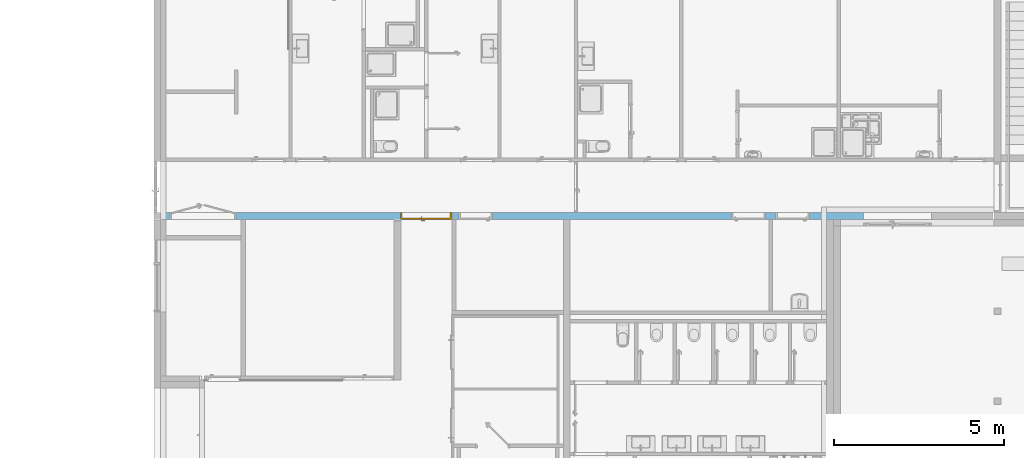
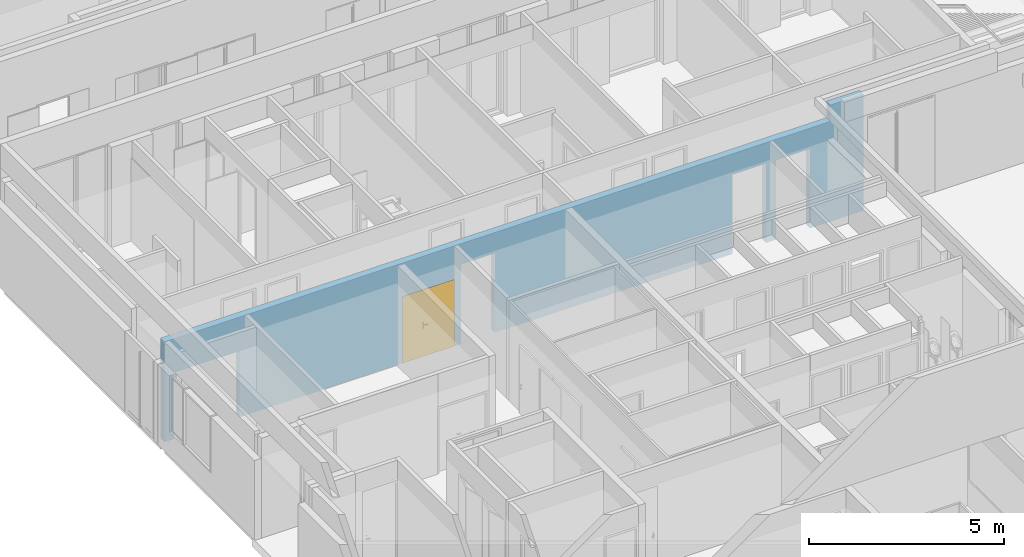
# One storey, part 200 of 240: 1 door, 6 openings, plus 1 element that does not belong to this part.
"""IFC2X3 building model written with IfcOpenShell, lengths in centimetres."""

from ifc_helpers import new_model, entity, si_unit, converted_unit, derived_unit, direction, frame, frame_2d, origin, place, context, subcontext, project, spatial, rectangle, extrude, faceted_brep, source, transform, mapped, material, material_list, layer, layer_set, layer_usage, type_object, type_shapes, element, fill, save


model = new_model("IFC2X3")

# Units and contexts
model_context = context("Model", 3, precision=0.001, world=origin(), true_north=direction((6.12303176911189e-17, 1.0)))
body_context = subcontext(model_context, "Body", "Model", "MODEL_VIEW")
ifc_project = project(units=[si_unit("LENGTHUNIT", "METRE", prefix="CENTI"), si_unit("AREAUNIT", "SQUARE_METRE"), si_unit("VOLUMEUNIT", "CUBIC_METRE"), converted_unit("PLANEANGLEUNIT", "DEGREE", entity("IfcRatioMeasure", 0.0174532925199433), si_unit("PLANEANGLEUNIT", "RADIAN"), dimensions=[0, 0, 0, 0, 0, 0, 0]), si_unit("MASSUNIT", "GRAM", prefix="KILO"), derived_unit("MASSDENSITYUNIT", [(si_unit("MASSUNIT", "GRAM", prefix="KILO"), 1), (si_unit("LENGTHUNIT", "METRE"), -3)]), si_unit("TIMEUNIT", "SECOND"), si_unit("FREQUENCYUNIT", "HERTZ"), si_unit("THERMODYNAMICTEMPERATUREUNIT", "DEGREE_CELSIUS"), derived_unit("THERMALTRANSMITTANCEUNIT", [(si_unit("MASSUNIT", "GRAM", prefix="KILO"), 1), (si_unit("THERMODYNAMICTEMPERATUREUNIT", "KELVIN"), -1), (si_unit("TIMEUNIT", "SECOND"), -3)]), derived_unit("VOLUMETRICFLOWRATEUNIT", [(si_unit("LENGTHUNIT", "METRE"), 3), (si_unit("TIMEUNIT", "SECOND"), -1)]), si_unit("ELECTRICCURRENTUNIT", "AMPERE"), si_unit("ELECTRICVOLTAGEUNIT", "VOLT"), si_unit("POWERUNIT", "WATT"), si_unit("FORCEUNIT", "NEWTON", prefix="KILO"), si_unit("ILLUMINANCEUNIT", "LUX"), si_unit("LUMINOUSFLUXUNIT", "LUMEN"), si_unit("LUMINOUSINTENSITYUNIT", "CANDELA"), derived_unit("USERDEFINED", [(si_unit("MASSUNIT", "GRAM", prefix="KILO"), -1), (si_unit("LENGTHUNIT", "METRE"), -2), (si_unit("TIMEUNIT", "SECOND"), 3), (si_unit("LUMINOUSFLUXUNIT", "LUMEN"), 1)]), derived_unit("LINEARVELOCITYUNIT", [(si_unit("LENGTHUNIT", "METRE"), 1), (si_unit("TIMEUNIT", "SECOND"), -1)]), si_unit("PRESSUREUNIT", "PASCAL"), derived_unit("USERDEFINED", [(si_unit("LENGTHUNIT", "METRE"), -2), (si_unit("MASSUNIT", "GRAM", prefix="KILO"), 1), (si_unit("TIMEUNIT", "SECOND"), -2)])], contexts=[model_context])

# Site, building, storey
site_placement = place(None, frame((-2781.94577612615, 7442.24238424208, 0.0)))
site = spatial("IfcSite", under=ifc_project, at=site_placement, Name="Default", CompositionType="ELEMENT")
building_placement = place(site_placement, origin())
building = spatial("IfcBuilding", under=site, at=building_placement, CompositionType="ELEMENT")
storey_placement = place(building_placement, origin())
storey = spatial("IfcBuildingStorey", under=building, at=storey_placement, Name="N00 - COO", CompositionType="ELEMENT", Elevation=0.0)

# Wall, openings, door
ifc_material_1 = material(Name="01 - Maçonnerie")
ifc_layer = layer(ifc_material_1, 20.0)
ifc_layer_set = layer_set([ifc_layer], Name="Mur de base:04 - Structure - béton - 20cm")
ifc_layer_usage = layer_usage(ifc_layer_set, "AXIS2", "NEGATIVE", 10.0)
wall_type = type_object("IfcWallType", Name="Mur de base:04 - Structure - béton - 20cm", PredefinedType="STANDARD", material=ifc_layer_set)
wall_placement = place(building_placement, frame((-10881.6130476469, -1920.07903364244, 0.0)))
wall = element("IfcWallStandardCase", 1, at=wall_placement, inside=storey, type_object=wall_type, material=ifc_layer_usage, Name="Mur de base:04 - Structure - béton - 20cm", ObjectType="Mur de base:04 - Structure - béton - 20cm", context=body_context, shape_type="SweptSolid", body=[
    extrude(rectangle(XDim=2067.62566675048, YDim=19.9999999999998, at=frame_2d((1033.81283337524, 9.32587340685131e-14), x_axis=(-1.0, 0.0))), origin(), (0.0, 0.0, 1.0), 364.000000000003),
])
opening_1_placement = place(wall_placement, origin())
element("IfcOpeningElement", 2, at=opening_1_placement, cuts=wall, Name="Mur de base:04 - Structure - béton - 20cm:4570", ObjectType="Opening", context=body_context, shape_type="SweptSolid", body=[
    extrude(rectangle(XDim=51.0000000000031, YDim=1979.68086759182, at=frame_2d((0.0, 0.0), x_axis=(0.0, 1.0))), frame((979.840433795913, 10.0, 338.500000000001), z_axis=(0.0, -1.0, 0.0), x_axis=(-1.0, 0.0, 0.0)), (0.0, 0.0, 1.0), 20.0),
])
opening_2_placement = place(wall_placement, frame((856.778497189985, 10.0, 0.0)))
opening_2 = element("IfcOpeningElement", 3, at=opening_2_placement, cuts=wall, Name="Int. Tierce:PP (1.44m x 2.04m):1", ObjectType="Opening", context=body_context, shape_type="SweptSolid", body=[
    extrude(rectangle(XDim=207.500000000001, YDim=151.0, at=frame_2d((103.750000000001, 75.4999999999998), x_axis=(1.0, 0.0))), frame((0.0, 0.0, 0.0), z_axis=(0.0, -1.0, 0.0), x_axis=(0.0, 0.0, 1.0)), (0.0, 0.0, 1.0), 20.0),
])
opening_3_placement = place(wall_placement, frame((976.778497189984, 10.0, 0.0)))
element("IfcOpeningElement", 4, at=opening_3_placement, cuts=wall, Name="Int. Simple:PP simple (0.93m x 2.50m):1", ObjectType="Opening", context=body_context, shape_type="SweptSolid", body=[
    extrude(rectangle(XDim=248.500000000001, YDim=99.9999999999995, at=frame_2d((124.250000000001, 49.9999999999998), x_axis=(1.0, 0.0))), frame((0.0, 0.0, 0.0), z_axis=(0.0, -1.0, 0.0), x_axis=(0.0, 0.0, 1.0)), (0.0, 0.0, 1.0), 20.0),
])
opening_4_placement = place(wall_placement, frame((1779.61305066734, 10.0, 0.0)))
element("IfcOpeningElement", 5, at=opening_4_placement, cuts=wall, Name="Int. Simple:PP simple (0.93m x 2.50m):1", ObjectType="Opening", context=body_context, shape_type="SweptSolid", body=[
    extrude(rectangle(XDim=248.500000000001, YDim=99.9999999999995, at=frame_2d((124.250000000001, 50.0), x_axis=(1.0, 0.0))), frame((0.0, 0.0, 0.0), z_axis=(0.0, -1.0, 0.0), x_axis=(0.0, 0.0, 1.0)), (0.0, 0.0, 1.0), 20.0),
])
opening_5_placement = place(wall_placement, frame((1909.61305066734, 10.0, 0.0)))
element("IfcOpeningElement", 6, at=opening_5_placement, cuts=wall, Name="Int. Simple:PP simple (0.93m x 2.50m):1", ObjectType="Opening", context=body_context, shape_type="SweptSolid", body=[
    extrude(rectangle(XDim=248.500000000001, YDim=99.9999999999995, at=frame_2d((124.250000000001, 49.9999999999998), x_axis=(1.0, 0.0))), frame((0.0, 0.0, 0.0), z_axis=(0.0, -1.0, 0.0), x_axis=(0.0, 0.0, 1.0)), (0.0, 0.0, 1.0), 20.0),
])
opening_6_placement = place(wall_placement, frame((27.500000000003, -10.0, 0.0)))
element("IfcOpeningElement", 7, at=opening_6_placement, cuts=wall, Name="Int. Double:PP Placard (1.88m x 2.04m):1", ObjectType="Opening", context=body_context, shape_type="SweptSolid", body=[
    extrude(rectangle(XDim=207.500000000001, YDim=195.0, at=frame_2d((103.750000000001, 97.5000000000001), x_axis=(1.0, 0.0))), frame((0.0, 0.0, 0.0), z_axis=(0.0, 1.0, 0.0), x_axis=(0.0, 0.0, 1.0)), (0.0, 0.0, 1.0), 20.0),
])
ifc_material_2 = material(Name="Finition Peinture - Blanc satiné")
ifc_material_3 = material(Name="Bois - Panneau de porte")
ifc_material_4 = material(Name="Bois - Cadre de porte")
ifc_material_list_1 = material_list([ifc_material_2, ifc_material_3, ifc_material_4])
ifc_material_list_2 = material_list([ifc_material_2, ifc_material_3, ifc_material_4])
door_style = type_object("IfcDoorStyle", Name="PP (1.44m x 2.04m)", ConstructionType="NOTDEFINED", OperationType="DOUBLE_DOOR_SINGLE_SWING", ParameterTakesPrecedence=False, Sizeable=False, material=ifc_material_list_2)
shared_shape = source(origin(), body_context, "Body", "Brep", [
    faceted_brep([(69.535276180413, -0.500000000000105, 86.6003983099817), (70.5000000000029, -0.500000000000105, 87.0), (70.5000000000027, -0.500000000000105, 108.0), (69.5352761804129, -0.500000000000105, 108.399601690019), (68.5000000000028, -0.500000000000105, 108.535898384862), (67.4647238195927, -0.500000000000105, 108.399601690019), (66.5000000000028, -0.500000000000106, 108.0), (66.5000000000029, -0.500000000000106, 87.0), (67.4647238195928, -0.500000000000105, 86.6003983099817), (68.5000000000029, -0.500000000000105, 86.464101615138), (69.5352761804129, 0.0, 108.399601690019), (70.5000000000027, 0.0, 108.0), (70.5000000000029, 0.0, 87.0), (69.535276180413, 0.0, 86.6003983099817), (68.5000000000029, 0.0, 86.464101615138), (67.4647238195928, 0.0, 86.6003983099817), (66.5000000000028, 0.0, 87.0), (66.5000000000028, 0.0, 108.0), (67.4647238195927, 0.0, 108.399601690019), (68.5000000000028, 0.0, 108.535898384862)], [[[0, 1, 2, 3, 4, 5, 6, 7, 8, 9]], [[10, 11, 12, 13, 14, 15, 16, 17, 18, 19]], [[16, 15, 8, 7]], [[8, 15, 14, 9]], [[14, 13, 0, 9]], [[13, 12, 1, 0]], [[2, 1, 12, 11]], [[11, 10, 3, 2]], [[3, 10, 19, 4]], [[19, 18, 5, 4]], [[18, 17, 6, 5]], [[7, 6, 17, 16]]]),
    faceted_brep([(69.535276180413, 4.0, 86.6003983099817), (70.5000000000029, 4.0, 87.0), (70.5000000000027, 4.0, 108.0), (69.5352761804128, 4.0, 108.399601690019), (68.5000000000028, 4.0, 108.535898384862), (67.4647238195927, 4.0, 108.399601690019), (66.5000000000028, 4.0, 108.0), (66.5000000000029, 4.0, 87.0), (67.4647238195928, 4.0, 86.6003983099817), (68.5000000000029, 4.0, 86.464101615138), (69.5352761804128, 4.49999999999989, 108.399601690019), (70.5000000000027, 4.49999999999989, 108.0), (70.5000000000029, 4.49999999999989, 87.0), (69.535276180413, 4.49999999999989, 86.6003983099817), (68.5000000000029, 4.49999999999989, 86.464101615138), (67.4647238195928, 4.49999999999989, 86.6003983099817), (66.5000000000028, 4.49999999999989, 87.0), (66.5000000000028, 4.49999999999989, 108.0), (67.4647238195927, 4.49999999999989, 108.399601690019), (68.5000000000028, 4.49999999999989, 108.535898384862)], [[[0, 1, 2, 3, 4, 5, 6, 7, 8, 9]], [[10, 11, 12, 13, 14, 15, 16, 17, 18, 19]], [[11, 10, 3, 2]], [[3, 10, 19, 4]], [[19, 18, 5, 4]], [[18, 17, 6, 5]], [[7, 6, 17, 16]], [[16, 15, 8, 7]], [[8, 15, 14, 9]], [[14, 13, 0, 9]], [[13, 12, 1, 0]], [[2, 1, 12, 11]]]),
    faceted_brep([(68.2974701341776, -0.500000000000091, 100.778044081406), (68.7025298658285, -0.500000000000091, 100.778044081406), (69.1000000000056, -0.500000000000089, 100.699999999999), (69.1000000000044, -0.500000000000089, 99.3000000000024), (68.7025298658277, -0.500000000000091, 99.2219559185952), (68.2974701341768, -0.500000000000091, 99.221955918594), (67.9000000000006, -0.500000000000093, 99.2999999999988), (67.9000000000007, -0.500000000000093, 100.7), (67.9000000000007, -3.26509507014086, 100.7), (68.2974701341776, -3.10045754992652, 100.778044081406), (69.9023585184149, -4.70534593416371, 100.778044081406), (70.0701397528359, -4.30028620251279, 100.778044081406), (68.7025298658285, -2.93267631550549, 100.778044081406), (69.1000000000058, -2.76803879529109, 100.7), (69.1000000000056, -2.76803879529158, 99.3000000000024), (68.7025298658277, -2.93267631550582, 99.2219559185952), (70.0701397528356, -4.30028620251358, 99.2219559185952), (69.9023585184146, -4.70534593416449, 99.221955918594), (68.2974701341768, -3.10045754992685, 99.221955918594), (67.9000000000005, -3.26509507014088, 99.2999999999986), (69.7377209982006, -5.10281606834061, 100.7), (70.2347772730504, -3.90281606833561, 100.7), (70.2347772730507, -3.90281606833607, 99.3000000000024), (69.7377209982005, -5.10281606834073, 99.2999999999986), (78.5018640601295, -5.1028160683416, 99.2999999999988), (78.5018640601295, -4.70534593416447, 99.221955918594), (78.5018640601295, -4.30028620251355, 99.2219559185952), (78.5018640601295, -3.90281606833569, 99.3000000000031), (78.5018640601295, -3.90281606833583, 100.7), (78.5018640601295, -4.30028620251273, 100.778044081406), (78.5018640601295, -4.70534593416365, 100.778044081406), (78.5018640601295, -5.10281606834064, 100.699999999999), (73.7307697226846, -5.10281606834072, 100.7), (74.2860019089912, -4.5028160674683, 100.78786867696), (74.3683206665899, -3.9028160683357, 100.7), (74.3683206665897, -3.90281606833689, 99.3000000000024), (74.286001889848, -4.50281607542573, 99.2121313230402), (73.7307700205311, -5.10281606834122, 99.2999999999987)], [[[0, 1, 2, 3, 4, 5, 6, 7]], [[8, 9, 0, 7]], [[9, 10, 11, 12, 1, 0]], [[12, 13, 2, 1]], [[3, 2, 13, 14]], [[14, 15, 4, 3]], [[15, 16, 17, 18, 5, 4]], [[18, 19, 6, 5]], [[7, 6, 19, 8]], [[20, 10, 9, 8]], [[11, 21, 13, 12]], [[14, 13, 21, 22]], [[22, 16, 15, 14]], [[17, 23, 19, 18]], [[8, 19, 23, 20]], [[24, 25, 26, 27, 28, 29, 30, 31]], [[32, 30, 33]], [[31, 30, 32]], [[10, 20, 32]], [[33, 34, 11]], [[21, 11, 34]], [[34, 29, 28]], [[30, 29, 33]], [[29, 34, 33]], [[10, 32, 33]], [[10, 33, 11]], [[22, 21, 34, 28, 27, 35]], [[35, 26, 36]], [[37, 36, 25]], [[22, 35, 16]], [[35, 27, 26]], [[24, 37, 25]], [[23, 17, 37]], [[37, 17, 36]], [[17, 16, 36]], [[16, 35, 36]], [[25, 36, 26]], [[20, 23, 37, 24, 31, 32]]]),
    faceted_brep([(68.2974701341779, 4.49999999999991, 100.778044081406), (67.9000000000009, 4.4999999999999, 100.7), (67.8999999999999, 4.4999999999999, 99.2999999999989), (68.2974701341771, 4.49999999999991, 99.221955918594), (68.702529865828, 4.49999999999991, 99.2219559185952), (69.1000000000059, 4.49999999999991, 99.3000000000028), (69.1000000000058, 4.49999999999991, 100.7), (68.7025298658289, 4.49999999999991, 100.778044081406), (69.1000000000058, 6.7485204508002, 99.3000000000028), (69.1000000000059, 6.74852045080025, 100.7), (68.7025298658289, 6.91315797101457, 100.778044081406), (70.0838906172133, 8.29451872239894, 100.778044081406), (69.9161093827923, 8.69957845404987, 100.778044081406), (68.297470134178, 7.0809392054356, 100.778044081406), (67.9000000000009, 7.24557672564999, 100.7), (67.9000000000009, 7.2455767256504, 99.2999999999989), (68.297470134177, 7.08093920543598, 99.221955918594), (69.916109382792, 8.69957845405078, 99.221955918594), (70.083890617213, 8.29451872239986, 99.2219559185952), (68.702529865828, 6.91315797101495, 99.2219559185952), (70.2485281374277, 7.89704858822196, 99.3000000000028), (70.2485281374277, 7.89704858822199, 100.7), (69.751471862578, 9.09704858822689, 100.7), (69.7514718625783, 9.0970485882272, 99.2999999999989), (78.5045783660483, 7.89704858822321, 99.3000000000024), (78.5045783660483, 8.29451872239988, 99.2219559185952), (78.5045783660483, 8.6995784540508, 99.221955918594), (78.5045783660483, 9.09704858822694, 99.2999999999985), (78.5045783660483, 9.09704858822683, 100.7), (78.5045783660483, 8.69957845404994, 100.778044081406), (78.5045783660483, 8.29451872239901, 100.778044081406), (78.5045783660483, 7.89704858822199, 100.7), (74.3765520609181, 7.89704858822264, 99.3000000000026), (74.376553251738, 7.89704858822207, 100.7), (74.2942344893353, 8.49704858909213, 100.78786867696), (73.7445205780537, 9.09704858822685, 100.7), (73.7445204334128, 9.09704858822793, 99.2999999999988), (74.2942345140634, 8.49704858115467, 99.2121313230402)], [[[0, 1, 2, 3, 4, 5, 6, 7]], [[6, 5, 8, 9]], [[9, 10, 7, 6]], [[10, 11, 12, 13, 0, 7]], [[13, 14, 1, 0]], [[2, 1, 14, 15]], [[15, 16, 3, 2]], [[16, 17, 18, 19, 4, 3]], [[19, 8, 5, 4]], [[9, 8, 20, 21]], [[21, 11, 10, 9]], [[12, 22, 14, 13]], [[15, 14, 22, 23]], [[23, 17, 16, 15]], [[18, 20, 8, 19]], [[24, 25, 26, 27, 28, 29, 30, 31]], [[21, 20, 32, 24, 31, 33]], [[33, 30, 34]], [[35, 34, 29]], [[21, 33, 11]], [[33, 31, 30]], [[28, 35, 29]], [[22, 12, 35]], [[35, 12, 34]], [[12, 11, 34]], [[11, 33, 34]], [[29, 34, 30]], [[22, 35, 28, 27, 36, 23]], [[36, 26, 37]], [[27, 26, 36]], [[17, 23, 36]], [[37, 32, 18]], [[20, 18, 32]], [[32, 25, 24]], [[26, 25, 37]], [[25, 32, 37]], [[17, 36, 37]], [[17, 37, 18]]]),
    faceted_brep([(62.5000000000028, 4.0, 204.0), (154.500000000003, 4.0, 204.0), (154.500000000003, 4.0, 0.0), (62.5000000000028, 4.0, 0.0), (62.5000000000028, 0.0, 204.0), (62.5000000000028, 0.0, 0.0), (154.500000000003, 0.0, 0.0), (154.500000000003, 0.0, 204.0)], [[[0, 1, 2, 3]], [[4, 5, 6, 7]], [[1, 0, 4, 7]], [[2, 1, 7, 6]], [[3, 2, 6, 5]], [[0, 3, 5, 4]]]),
    faceted_brep([(158.0, 0.0, 0.0), (154.500000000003, 0.0, 0.0), (154.500000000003, 4.0, 0.0), (153.0, 4.0, 0.0), (153.0, 20.0, 0.0), (158.0, 20.0, 0.0), (158.0, 20.0, 207.500000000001), (158.0, 0.0, 207.500000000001), (153.0, 20.0, 202.499999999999), (12.0, 20.0, 202.499999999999), (12.0, 20.0, 0.0), (7.0, 20.0, 0.0), (7.0, 20.0, 207.500000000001), (153.0, 4.0, 202.499999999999), (154.500000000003, 4.0, 204.0), (10.5000000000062, 4.0, 204.0), (10.5000000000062, 4.0, 0.0), (12.0, 4.0, 0.0), (12.0, 4.0, 202.499999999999), (154.500000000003, 0.0, 204.0), (7.0, 0.0, 207.500000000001), (7.0, 0.0, 0.0), (10.5000000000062, 0.0, 0.0), (10.5000000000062, 0.0, 204.0)], [[[0, 1, 2, 3, 4, 5]], [[5, 6, 7, 0]], [[4, 8, 9, 10, 11, 12, 6, 5]], [[3, 13, 8, 4]], [[2, 14, 15, 16, 17, 18, 13, 3]], [[1, 19, 14, 2]], [[0, 7, 20, 21, 22, 23, 19, 1]], [[12, 11, 21, 20]], [[21, 11, 10, 17, 16, 22]], [[18, 17, 10, 9]], [[23, 22, 16, 15]], [[6, 12, 20, 7]], [[13, 18, 9, 8]], [[19, 23, 15, 14]]]),
    faceted_brep([(10.500000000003, 0.0, 204.0), (62.5000000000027, 0.0, 204.0), (62.5000000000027, 4.0, 204.0), (10.500000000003, 4.0, 204.0), (10.500000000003, 0.0, 0.0), (10.500000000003, 4.0, 0.0), (62.5000000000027, 4.0, 0.0), (62.5000000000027, 0.0, 0.0)], [[[0, 1, 2, 3]], [[4, 5, 6, 7]], [[3, 5, 4, 0]], [[2, 6, 5, 3]], [[1, 7, 6, 2]], [[0, 4, 7, 1]]]),
    faceted_brep([(156.500000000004, 20.0, 0.0), (156.500000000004, 20.5000000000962, 0.0), (159.500000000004, 20.5000000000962, 0.0), (159.500000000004, 20.0, 0.0), (159.500000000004, 20.0, 209.0), (5.50000000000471, 20.0, 209.0), (5.50000000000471, 20.0, 0.0), (8.5000000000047, 20.0, 0.0), (8.5000000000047, 20.0, 206.0), (156.500000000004, 20.0, 206.0), (159.500000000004, 20.5000000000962, 209.0), (156.500000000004, 20.5000000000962, 206.0), (8.5000000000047, 20.5000000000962, 206.0), (8.5000000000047, 20.5000000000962, 0.0), (5.50000000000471, 20.5000000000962, 0.0), (5.50000000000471, 20.5000000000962, 209.0)], [[[0, 1, 2, 3]], [[3, 4, 5, 6, 7, 8, 9, 0]], [[2, 10, 4, 3]], [[1, 11, 12, 13, 14, 15, 10, 2]], [[0, 9, 11, 1]], [[7, 6, 14, 13]], [[8, 7, 13, 12]], [[15, 14, 6, 5]], [[10, 15, 5, 4]], [[9, 8, 12, 11]]]),
    faceted_brep([(159.500000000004, -0.500000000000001, 0.0), (159.500000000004, -0.500000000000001, 209.0), (5.50000000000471, -0.500000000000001, 209.0), (5.50000000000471, -0.500000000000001, 0.0), (8.5000000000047, -0.500000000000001, 0.0), (8.5000000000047, -0.500000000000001, 206.0), (156.500000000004, -0.500000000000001, 206.0), (156.500000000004, -0.500000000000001, 0.0), (159.500000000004, 0.0, 0.0), (159.500000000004, 0.0, 209.0), (156.500000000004, 0.0, 0.0), (156.500000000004, 0.0, 206.0), (8.5000000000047, 0.0, 206.0), (8.5000000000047, 0.0, 0.0), (5.50000000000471, 0.0, 0.0), (5.50000000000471, 0.0, 209.0)], [[[0, 1, 2, 3, 4, 5, 6, 7]], [[8, 9, 1, 0]], [[10, 11, 12, 13, 14, 15, 9, 8]], [[7, 6, 11, 10]], [[5, 4, 13, 12]], [[15, 14, 3, 2]], [[9, 15, 2, 1]], [[6, 5, 12, 11]], [[4, 3, 14, 13]], [[7, 10, 8, 0]]]),
])
type_shapes(door_style, [shared_shape])
door_placement = place(opening_2_placement, frame((-158.0, -20.0, 0.0)))
door = element("IfcDoor", 8, at=door_placement, inside=storey, type_object=door_style, material=ifc_material_list_1, Name="Int. Tierce:PP (1.44m x 2.04m)", ObjectType="Int. Tierce:PP (1.44m x 2.04m)", OverallHeight=207.500000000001, OverallWidth=151.0, context=body_context, shape_type="MappedRepresentation", body=[
    mapped(shared_shape, transform((0.0, 0.0, 0.0), scale=1.0)),
])
fill(opening_2, door)

save(model, "model.ifc")
